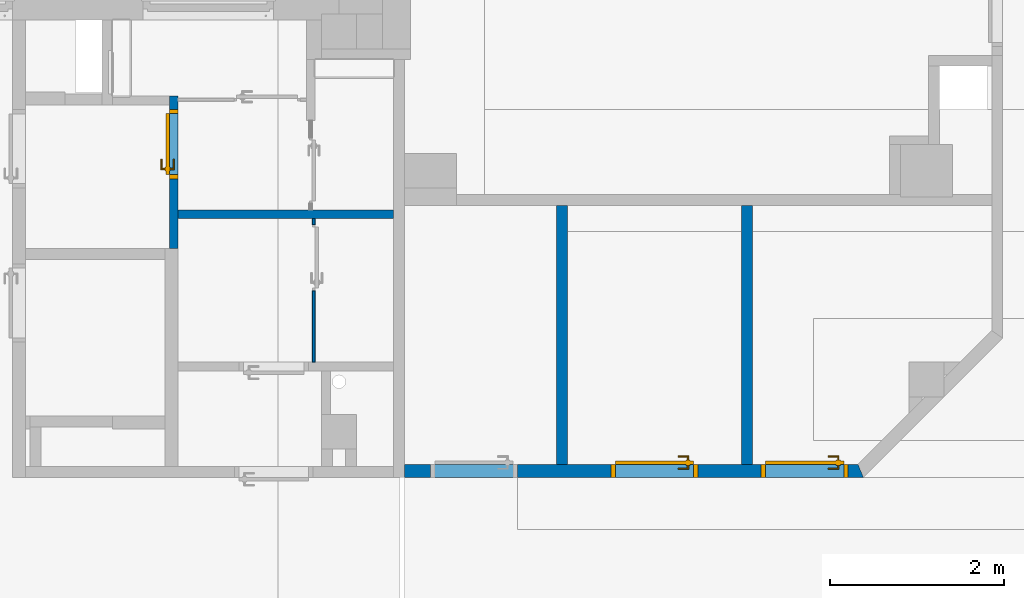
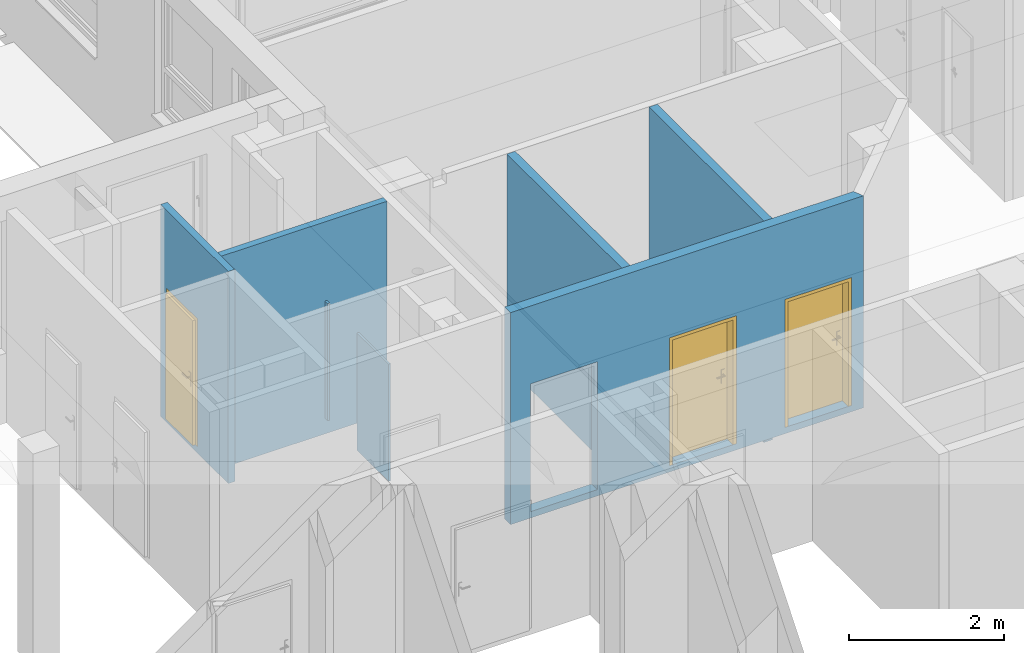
# One storey, part 36 of 140: 6 walls, 3 doors, 5 openings.
"""IFC4 building model written with IfcOpenShell, lengths in metres."""

import ifcopenshell
import ifcopenshell.guid

model = None  # the IFC model being written
_history = None  # IfcOwnerHistory: only IFC2X3 demands one
_inside = {}  # id of a spatial element -> (the spatial element, [elements in it])
_under = {}  # id of a project, library or spatial element -> (it, [spatial elements below it])
_declared = {}  # id of a project -> (the project, [libraries it declares])
_typed = {}  # id of a type object -> (the type object, [elements of that type])
_made_of = {}  # id of a material, layer set ... -> (it, [elements and type objects made of it])


def new_model(schema):
    """Start an empty IFC model of exactly this schema.

    Asked for "IFC4X3", IfcOpenShell would pick the latest addendum, in which some entities
    have other attributes; the version numbers below select the first issue.
    IFC2X3 requires an IfcOwnerHistory on every rooted entity: one is made here for all.
    """
    global model, _history
    if schema == "IFC4X3":
        model = ifcopenshell.file(schema_version=(4, 3, 0, 0))
    else:
        model = ifcopenshell.file(schema=schema)
    _inside.clear()
    _under.clear()
    _declared.clear()
    _typed.clear()
    _made_of.clear()
    _history = None
    if model.schema == "IFC2X3":
        org = make("IfcOrganization", Name="unknown")
        user = make(
            "IfcPersonAndOrganization",
            ThePerson=make("IfcPerson", FamilyName="unknown"),
            TheOrganization=org,
        )
        app = make(
            "IfcApplication",
            ApplicationDeveloper=org,
            Version="unknown",
            ApplicationFullName="unknown",
            ApplicationIdentifier="unknown",
        )
        _history = make(
            "IfcOwnerHistory",
            OwningUser=user,
            OwningApplication=app,
            ChangeAction="ADDED",
            CreationDate=0,
        )
    return model


def make(cls, **values):
    """One entity of the class cls with the attributes given. An attribute that is None is left unset."""
    return model.create_entity(
        cls, **{name: value for name, value in values.items() if value is not None}
    )


def entity(cls, *values):
    """Any entity or typed value of the class cls, its attributes in the order of the schema. None: left unset."""
    e = model.create_entity(cls)
    for i, value in enumerate(values):
        if value is not None:
            e[i] = value
    return e


def rooted(cls, **values):
    """An entity with a GlobalId (a new one), such as an element, a storey or a relation."""
    return make(cls, GlobalId=ifcopenshell.guid.new(), OwnerHistory=_history, **values)


def si_unit(unit_type, name, prefix=None):
    """IfcSIUnit, for example si_unit("LENGTHUNIT", "METRE", prefix="MILLI")."""
    return make("IfcSIUnit", UnitType=unit_type, Prefix=prefix, Name=name)


def converted_unit(unit_type, name, factor, base, dimensions=None, offset=None):
    """IfcConversionBasedUnit, such as the inch: factor (a typed value) times the base unit."""
    return make(
        "IfcConversionBasedUnit"
        if offset is None
        else "IfcConversionBasedUnitWithOffset",
        ConversionOffset=offset,
        Dimensions=None
        if dimensions is None
        else entity("IfcDimensionalExponents", *dimensions),
        UnitType=unit_type,
        Name=name,
        ConversionFactor=make(
            "IfcMeasureWithUnit", ValueComponent=factor, UnitComponent=base
        ),
    )


def derived_unit(unit_type, elements):
    """IfcDerivedUnit: a product of units, each with its exponent."""
    return make(
        "IfcDerivedUnit",
        Elements=[
            make("IfcDerivedUnitElement", Unit=unit, Exponent=power)
            for unit, power in elements
        ],
        UnitType=unit_type,
    )


def assignment(units):
    """IfcUnitAssignment: the units of a project."""
    return None if units is None else make("IfcUnitAssignment", Units=units)


def point(xyz):
    """IfcCartesianPoint."""
    return None if xyz is None else make("IfcCartesianPoint", Coordinates=xyz)


def direction(xyz):
    """IfcDirection."""
    return None if xyz is None else make("IfcDirection", DirectionRatios=xyz)


def frame(location, z_axis=None, x_axis=None):
    """IfcAxis2Placement3D, a coordinate frame: its origin and axes. An axis left out is left unset."""
    return make(
        "IfcAxis2Placement3D",
        Location=point(location),
        Axis=direction(z_axis),
        RefDirection=direction(x_axis),
    )


def frame_2d(location, x_axis=None):
    """IfcAxis2Placement2D, a coordinate frame in the plane: its origin and x axis."""
    return make(
        "IfcAxis2Placement2D", Location=point(location), RefDirection=direction(x_axis)
    )


def origin():
    """The frame at (0, 0, 0) with its axes left unset."""
    return frame((0.0, 0.0, 0.0))


def origin_with_axes():
    """The frame at (0, 0, 0) with the z axis (0, 0, 1) and the x axis (1, 0, 0) written out."""
    return frame((0.0, 0.0, 0.0), z_axis=(0.0, 0.0, 1.0), x_axis=(1.0, 0.0, 0.0))


def place(relative_to, where):
    """IfcLocalPlacement: puts the frame where relative to a parent placement (None: the world)."""
    return make(
        "IfcLocalPlacement", PlacementRelTo=relative_to, RelativePlacement=where
    )


def context(
    kind, dimensions, precision=None, world=None, true_north=None, identifier=None
):
    """IfcGeometricRepresentationContext, for example the 3D "Model" context."""
    return make(
        "IfcGeometricRepresentationContext",
        ContextIdentifier=identifier,
        ContextType=kind,
        CoordinateSpaceDimension=dimensions,
        Precision=precision,
        WorldCoordinateSystem=world,
        TrueNorth=true_north,
    )


def subcontext(parent, identifier, kind, view, scale=None):
    """IfcGeometricRepresentationSubContext, for example "Body" below "Model"."""
    return make(
        "IfcGeometricRepresentationSubContext",
        ContextIdentifier=identifier,
        ContextType=kind,
        ParentContext=parent,
        TargetScale=scale,
        TargetView=view,
    )


def project(units=None, contexts=None):
    """IfcProject with its units and contexts."""
    return rooted(
        "IfcProject",
        Name="project",
        RepresentationContexts=contexts,
        UnitsInContext=assignment(units),
    )


def spatial(cls, under=None, at=None, **own):
    """A site, building, storey or space (cls), placed at a placement, below another one or the project."""
    s = rooted(cls, ObjectPlacement=at, **own)
    if under is not None:
        _under.setdefault(under.id(), (under, []))[1].append(s)
    return s


def polyline(points):
    """IfcPolyline through the points."""
    return make("IfcPolyline", Points=[point(p) for p in points])


def profile(cls, at=None, kind="AREA", **sizes):
    """A parametric profile (cls). Its sizes go by their IFC names, for example OverallWidth=200.0."""
    return make(cls, ProfileType=kind, Position=at, **sizes)


def rectangle(**sizes):
    """IfcRectangleProfileDef."""
    return profile("IfcRectangleProfileDef", **sizes)


def outline(outer, holes=None, kind="AREA"):
    """IfcArbitraryClosedProfileDef: a profile drawn as a closed curve; with holes, ...WithVoids."""
    if holes is None:
        return make("IfcArbitraryClosedProfileDef", ProfileType=kind, OuterCurve=outer)
    return make(
        "IfcArbitraryProfileDefWithVoids",
        ProfileType=kind,
        OuterCurve=outer,
        InnerCurves=holes,
    )


def extrude(swept, where, along, depth):
    """IfcExtrudedAreaSolid: the profile swept, set in the frame where, extruded along a direction by depth."""
    return make(
        "IfcExtrudedAreaSolid",
        SweptArea=swept,
        Position=where,
        ExtrudedDirection=direction(along),
        Depth=depth,
    )


def faces_of(points, faces, orient=None, outer=None):
    """IfcFace entities. A face is a list of loops; a loop is a list of indices into points, from 0.

    orient and outer hold one flag for each loop. By default every Orientation is true, the
    first loop of a face is its IfcFaceOuterBound and the others are IfcFaceBound.
    """
    made = []
    for i, loops in enumerate(faces):
        bounds = []
        for j, loop in enumerate(loops):
            is_outer = j == 0 if outer is None else outer[i][j]
            bounds.append(
                make(
                    "IfcFaceOuterBound" if is_outer else "IfcFaceBound",
                    Bound=make("IfcPolyLoop", Polygon=[points[k] for k in loop]),
                    Orientation=True if orient is None else orient[i][j],
                )
            )
        made.append(make("IfcFace", Bounds=bounds))
    return made


def closed_shell(faces, orient=None, outer=None):
    """The faces of one IfcClosedShell. faceted_brep and surface_model build it on their shared points."""
    return ("IfcClosedShell", faces, orient, outer)


def open_shell(faces, orient=None, outer=None):
    """The faces of one IfcOpenShell. surface_model builds it on its shared points."""
    return ("IfcOpenShell", faces, orient, outer)


def surface_model(cls, points, shells):
    """IfcFaceBasedSurfaceModel or IfcShellBasedSurfaceModel (cls): surfaces that need not close."""
    shared = [point(p) for p in points]
    made = [make(c, CfsFaces=faces_of(shared, fs, o, b)) for c, fs, o, b in shells]
    if cls == "IfcFaceBasedSurfaceModel":
        return make(cls, FbsmFaces=made)
    return make(cls, SbsmBoundary=made)


def shape(context_of_items, identifier, shape_type, items):
    """IfcShapeRepresentation: the items that make up one representation, for example the "Body"."""
    return make(
        "IfcShapeRepresentation",
        ContextOfItems=context_of_items,
        RepresentationIdentifier=identifier,
        RepresentationType=shape_type,
        Items=items,
    )


def source(mapping_origin, context_of_items, identifier, shape_type, items):
    """IfcRepresentationMap: a shape defined once, which mapped items show again and again."""
    return make(
        "IfcRepresentationMap",
        MappingOrigin=mapping_origin,
        MappedRepresentation=shape(context_of_items, identifier, shape_type, items),
    )


def transform(
    local_origin,
    x_axis=None,
    y_axis=None,
    z_axis=None,
    scale=None,
    scale2=None,
    scale3=None,
    uniform=True,
):
    """IfcCartesianTransformationOperator3D, or its non-uniform kind. x_axis, y_axis, z_axis: its Axis1, 2, 3."""
    if uniform:
        return make(
            "IfcCartesianTransformationOperator3D",
            Axis1=direction(x_axis),
            Axis2=direction(y_axis),
            LocalOrigin=point(local_origin),
            Scale=scale,
            Axis3=direction(z_axis),
        )
    return make(
        "IfcCartesianTransformationOperator3DnonUniform",
        Axis1=direction(x_axis),
        Axis2=direction(y_axis),
        LocalOrigin=point(local_origin),
        Scale=scale,
        Axis3=direction(z_axis),
        Scale2=scale2,
        Scale3=scale3,
    )


def mapped(mapping_source, mapping_target):
    """IfcMappedItem: shows the shape of a source again, moved by a transform."""
    return make(
        "IfcMappedItem", MappingSource=mapping_source, MappingTarget=mapping_target
    )


def material(Name=None, Category=None):
    """IfcMaterial."""
    return make("IfcMaterial", Name=Name, Category=Category)


def layer(
    of_material, thickness, ventilated=None, Name=None, Category=None, Priority=None
):
    """IfcMaterialLayer: one layer of a wall or slab, of a material (None: an air gap)."""
    return make(
        "IfcMaterialLayer",
        Material=of_material,
        LayerThickness=thickness,
        IsVentilated=ventilated,
        Name=Name,
        Category=Category,
        Priority=Priority,
    )


def layer_set(layers, Name=None):
    """IfcMaterialLayerSet."""
    return make("IfcMaterialLayerSet", MaterialLayers=layers, LayerSetName=Name)


def layer_usage(for_layer_set, set_direction, sense, offset, extent=None):
    """IfcMaterialLayerSetUsage: how a layer set lies in its element."""
    return make(
        "IfcMaterialLayerSetUsage",
        ForLayerSet=for_layer_set,
        LayerSetDirection=set_direction,
        DirectionSense=sense,
        OffsetFromReferenceLine=offset,
        ReferenceExtent=extent,
    )


def made_of(thing, what):
    """Note that an element or type object is made of a material, layer set ...; save() writes the relation."""
    if what is not None:
        _made_of.setdefault(what.id(), (what, []))[1].append(thing)
    return thing


def type_object(cls, material=None, **own):
    """A type object (cls), such as IfcWallType, which elements share."""
    return made_of(rooted(cls, **own), material)


def element(
    cls,
    number,
    at=None,
    inside=None,
    cuts=None,
    type_object=None,
    material=None,
    context=None,
    identifier="Body",
    shape_type=None,
    held_by="IfcProductDefinitionShape",
    body=None,
    shapes=None,
    **own,
):
    """One element of the class cls, such as IfcWall. Its Tag is "e" and its number.

    at: its placement. inside: the storey or other place that contains it. cuts: it is an
    opening in that element (IfcRelVoidsElement). A single representation is given by context,
    identifier, shape_type and body (its items); several are given by shapes. held_by: the class
    of the entity that holds the representations. save() writes the other relations.
    """
    e = rooted(cls, Tag="e%d" % number, ObjectPlacement=at, **own)
    if body is not None:
        shapes = [shape(context, identifier, shape_type, body)]
    if shapes is not None:
        e.Representation = make(held_by, Representations=shapes)
    if inside is not None:
        _inside.setdefault(inside.id(), (inside, []))[1].append(e)
    if cuts is not None:
        rooted(
            "IfcRelVoidsElement", RelatingBuildingElement=cuts, RelatedOpeningElement=e
        )
    if type_object is not None:
        _typed.setdefault(type_object.id(), (type_object, []))[1].append(e)
    return made_of(e, material)


def fill(opening, filler):
    """IfcRelFillsElement: the door or window that sits in an opening."""
    return rooted(
        "IfcRelFillsElement",
        RelatingOpeningElement=opening,
        RelatedBuildingElement=filler,
    )


def aggregate(whole, parts):
    """IfcRelAggregates: a whole, such as a stair, and the parts it consists of."""
    return rooted("IfcRelAggregates", RelatingObject=whole, RelatedObjects=parts)


def save(model, path):
    """Write the relations noted so far, then the file.

    IfcRelAggregates (storeys below a building ...), IfcRelContainedInSpatialStructure (elements
    in a storey), IfcRelDefinesByType, IfcRelAssociatesMaterial and IfcRelDeclares: one each for
    every whole, place, type object, material and project.
    """
    for whole, parts in _under.values():
        aggregate(whole, parts)
    for where, things in _inside.values():
        rooted(
            "IfcRelContainedInSpatialStructure",
            RelatedElements=things,
            RelatingStructure=where,
        )
    for kind, things in _typed.values():
        rooted("IfcRelDefinesByType", RelatedObjects=things, RelatingType=kind)
    for what, things in _made_of.values():
        rooted("IfcRelAssociatesMaterial", RelatedObjects=things, RelatingMaterial=what)
    for by, libraries in _declared.values():
        rooted("IfcRelDeclares", RelatingContext=by, RelatedDefinitions=libraries)
    model.write(path)


model = new_model("IFC4")

# Units and contexts
model_context = context("Model", 3, precision=1e-05, world=origin())
body_context = subcontext(model_context, "Body", "Model", "MODEL_VIEW")
ifc_project = project(units=[si_unit("LENGTHUNIT", "METRE"), si_unit("AREAUNIT", "SQUARE_METRE"), si_unit("VOLUMEUNIT", "CUBIC_METRE"), si_unit("MASSUNIT", "GRAM", prefix="KILO"), converted_unit("PLANEANGLEUNIT", "DEGREE", entity("IfcPlaneAngleMeasure", 0.0174532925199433), si_unit("PLANEANGLEUNIT", "RADIAN"), dimensions=[0, 0, 0, 0, 0, 0, 0]), derived_unit("THERMALTRANSMITTANCEUNIT", [(si_unit("POWERUNIT", "WATT"), 1), (si_unit("THERMODYNAMICTEMPERATUREUNIT", "KELVIN"), -1), (si_unit("LENGTHUNIT", "METRE"), -2)]), derived_unit("VOLUMETRICFLOWRATEUNIT", [(si_unit("LENGTHUNIT", "METRE"), 3), (converted_unit("TIMEUNIT", "hour", entity("IfcTimeMeasure", 3600.0), si_unit("TIMEUNIT", "SECOND"), dimensions=[0, 0, 1, 0, 0, 0, 0]), -1), (si_unit("LENGTHUNIT", "METRE"), -1)])], contexts=[model_context])

# Site, building, storey
site_placement = place(None, origin())
site = spatial("IfcSite", under=ifc_project, at=site_placement, Name="3. ASŘ", CompositionType="ELEMENT")
building_placement = place(site_placement, origin())
building = spatial("IfcBuilding", under=site, at=building_placement, Name="Pavilon C", CompositionType="ELEMENT")
storey_placement = place(building_placement, origin())
storey = spatial("IfcBuildingStorey", under=building, at=storey_placement, Name="Půdorys 1.NP", CompositionType="ELEMENT", Elevation=0.0)

# Wall
ifc_material_1 = material(Name="YTONG 100")
ifc_layer_1 = layer(ifc_material_1, 0.1)
ifc_layer_set_1 = layer_set([ifc_layer_1])
ifc_layer_usage_1 = layer_usage(ifc_layer_set_1, "AXIS2", "POSITIVE", 0.0)
wall_1_placement = place(storey_placement, frame((22.15, 12.65, -0.1)))
element("IfcWall", 1, at=wall_1_placement, inside=storey, material=ifc_layer_usage_1, Name="YTONG 100", context=body_context, shape_type="SweptSolid", body=[
    extrude(rectangle(XDim=2.47499999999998, YDim=0.1, at=frame_2d((1.23749999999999, 0.05), x_axis=(1.0, 0.0))), origin_with_axes(), (0.0, 0.0, 1.0), 3.35),
])

# Wall, opening, door
ifc_material_2 = material(Name="YTONG 100")
ifc_layer_2 = layer(ifc_material_2, 0.1)
ifc_layer_set_2 = layer_set([ifc_layer_2])
ifc_layer_usage_2 = layer_usage(ifc_layer_set_2, "AXIS2", "POSITIVE", 0.0)
wall_2_placement = place(storey_placement, frame((22.05, 14.055, -0.1), z_axis=(0.0, 0.0, 1.0), x_axis=(0.0, -1.0, 0.0)))
wall_2 = element("IfcWall", 2, at=wall_2_placement, inside=storey, material=ifc_layer_usage_2, Name="YTONG 100", context=body_context, shape_type="SweptSolid", body=[
    extrude(rectangle(XDim=1.75, YDim=0.1, at=frame_2d((0.875, 0.05), x_axis=(1.0, 0.0))), origin_with_axes(), (0.0, 0.0, 1.0), 3.35),
])
opening_1_placement = place(wall_2_placement, frame((0.150000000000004, 0.0, 0.1), z_axis=(0.0, 1.0, 0.0), x_axis=(0.0, 0.0, 1.0)))
opening_1 = element("IfcOpeningElement", 3, at=opening_1_placement, cuts=wall_2, Name="Dveřní otvor", ObjectType="Opening", context=body_context, shape_type="SweptSolid", body=[
    extrude(outline(polyline([(0.0, 0.8), (2.02, 0.8), (2.02, 0.0), (0.0, 0.0), (0.0, 0.8)])), origin_with_axes(), (0.0, 0.0, 1.0), 0.1),
])
door_type_1 = type_object("IfcDoorType", Name="D101", OperationType="NOTDEFINED", ParameterTakesPrecedence=False, PredefinedType="DOOR")
shared_shape_1 = source(origin_with_axes(), body_context, "Body", "SurfaceModel", [
    surface_model("IfcShellBasedSurfaceModel", [(0.0, 0.1, 2.02), (0.0, 0.1, -6.12323399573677e-18), (0.05, 0.1, -6.12323399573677e-18), (0.05, 0.1, 2.02), (0.0, 0.0, 6.12323399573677e-18), (0.0, 2.41584530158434e-16, 2.02), (0.05, 2.41584530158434e-16, 2.02), (0.05, 0.0, 6.12323399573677e-18)], [closed_shell([[[0, 1, 2, 3]], [[4, 5, 6, 7]], [[1, 0, 5, 4]], [[2, 1, 4, 7]], [[3, 2, 7, 6]], [[0, 3, 6, 5]]], orient=[[False], [False], [False], [False], [False], [False]])]),
    surface_model("IfcShellBasedSurfaceModel", [(0.75, 0.1, 2.02), (0.75, 0.1, -6.12323399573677e-18), (0.8, 0.1, -6.12323399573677e-18), (0.8, 0.1, 2.02), (0.75, 0.0, 6.12323399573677e-18), (0.75, 2.41584530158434e-16, 2.02), (0.8, 2.41584530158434e-16, 2.02), (0.8, 0.0, 6.12323399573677e-18)], [closed_shell([[[0, 1, 2, 3]], [[4, 5, 6, 7]], [[1, 0, 5, 4]], [[2, 1, 4, 7]], [[3, 2, 7, 6]], [[0, 3, 6, 5]]], orient=[[False], [False], [False], [False], [False], [False]])]),
    surface_model("IfcShellBasedSurfaceModel", [(0.05, 0.1, 2.02), (0.05, 0.1, 1.97), (0.75, 0.1, 1.97), (0.75, 0.1, 2.02), (0.05, 2.41584530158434e-16, 1.97), (0.05, 2.41584530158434e-16, 2.02), (0.75, 2.41584530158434e-16, 2.02), (0.75, 2.41584530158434e-16, 1.97)], [closed_shell([[[0, 1, 2, 3]], [[4, 5, 6, 7]], [[1, 0, 5, 4]], [[2, 1, 4, 7]], [[3, 2, 7, 6]], [[0, 3, 6, 5]]], orient=[[False], [False], [False], [False], [False], [False]])]),
    surface_model("IfcShellBasedSurfaceModel", [(0.05, 0.14, 1.97), (0.05, 0.14, -1.10218211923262e-17), (0.75, 0.14, -1.10218211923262e-17), (0.75, 0.14, 1.97), (0.05, 0.1, -6.12323399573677e-18), (0.05, 0.1, 1.97), (0.75, 0.1, 1.97), (0.75, 0.1, -6.12323399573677e-18)], [closed_shell([[[0, 1, 2, 3]], [[4, 5, 6, 7]], [[1, 0, 5, 4]], [[2, 1, 4, 7]], [[3, 2, 7, 6]], [[0, 3, 6, 5]]], orient=[[False], [False], [False], [False], [False], [False]])]),
    surface_model("IfcShellBasedSurfaceModel", [(0.66, 0.1, 1.125), (0.66, 0.1, 0.91), (0.71, 0.1, 0.91), (0.71, 0.1, 1.125), (0.66, 0.0900000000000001, 0.91), (0.66, 0.0900000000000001, 1.125), (0.71, 0.0900000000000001, 1.125), (0.71, 0.0900000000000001, 0.91)], [closed_shell([[[0, 1, 2, 3]], [[4, 5, 6, 7]], [[1, 0, 5, 4]], [[2, 1, 4, 7]], [[3, 2, 7, 6]], [[0, 3, 6, 5]]], orient=[[False], [False], [False], [False], [False], [False]])]),
    surface_model("IfcShellBasedSurfaceModel", [(0.685, 0.0900000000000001, 1.06), (0.68, 0.0900000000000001, 1.05866025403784), (0.676339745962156, 0.0900000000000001, 1.055), (0.675, 0.0900000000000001, 1.05), (0.676339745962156, 0.0900000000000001, 1.045), (0.68, 0.0900000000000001, 1.04133974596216), (0.685, 0.0900000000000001, 1.04), (0.69, 0.0900000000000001, 1.04133974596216), (0.693660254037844, 0.0900000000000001, 1.045), (0.695, 0.0900000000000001, 1.05), (0.693660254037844, 0.0900000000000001, 1.055), (0.69, 0.0900000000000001, 1.05866025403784), (0.69, 0.0450000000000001, 1.05866025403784), (0.685, 0.0500000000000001, 1.06), (0.693660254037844, 0.0413397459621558, 1.055), (0.695, 0.0400000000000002, 1.05), (0.693660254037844, 0.0413397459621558, 1.045), (0.69, 0.0450000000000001, 1.04133974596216), (0.685, 0.0500000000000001, 1.04), (0.68, 0.0550000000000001, 1.04133974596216), (0.676339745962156, 0.0586602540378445, 1.045), (0.675, 0.0600000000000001, 1.05), (0.676339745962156, 0.0586602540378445, 1.055), (0.68, 0.0550000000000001, 1.05866025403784), (0.57, 0.0450000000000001, 1.05866025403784), (0.57, 0.0500000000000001, 1.06), (0.57, 0.0413397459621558, 1.055), (0.57, 0.0400000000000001, 1.05), (0.57, 0.0413397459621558, 1.045), (0.57, 0.0450000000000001, 1.04133974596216), (0.57, 0.0500000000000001, 1.04), (0.57, 0.0550000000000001, 1.04133974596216), (0.57, 0.0586602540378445, 1.045), (0.57, 0.0600000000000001, 1.05), (0.57, 0.0586602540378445, 1.055), (0.57, 0.0550000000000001, 1.05866025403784)], [open_shell([[[0, 1, 2, 3, 4, 5, 6, 7, 8, 9, 10, 11]], [[0, 11, 12, 13]], [[11, 10, 14, 12]], [[10, 9, 15, 14]], [[9, 8, 16, 15]], [[8, 7, 17, 16]], [[7, 6, 18, 17]], [[6, 5, 19, 18]], [[5, 4, 20, 19]], [[4, 3, 21, 20]], [[3, 2, 22, 21]], [[2, 1, 23, 22]], [[1, 0, 13, 23]], [[13, 12, 24, 25]], [[12, 14, 26, 24]], [[14, 15, 27, 26]], [[15, 16, 28, 27]], [[16, 17, 29, 28]], [[17, 18, 30, 29]], [[18, 19, 31, 30]], [[19, 20, 32, 31]], [[20, 21, 33, 32]], [[21, 22, 34, 33]], [[22, 23, 35, 34]], [[23, 13, 25, 35]]], orient=[[False], [False], [False], [False], [False], [False], [False], [False], [False], [False], [False], [False], [False], [False], [False], [False], [False], [False], [False], [False], [False], [False], [False], [False], [False]])]),
    surface_model("IfcShellBasedSurfaceModel", [(0.66, 0.14, 1.125), (0.71, 0.14, 1.125), (0.71, 0.14, 0.91), (0.66, 0.14, 0.91), (0.66, 0.15, 0.91), (0.71, 0.15, 0.91), (0.71, 0.15, 1.125), (0.66, 0.15, 1.125)], [closed_shell([[[0, 1, 2, 3]], [[4, 5, 6, 7]], [[3, 4, 7, 0]], [[2, 5, 4, 3]], [[1, 6, 5, 2]], [[0, 7, 6, 1]]], orient=[[False], [False], [False], [False], [False], [False]])]),
    surface_model("IfcShellBasedSurfaceModel", [(0.685, 0.15, 1.06), (0.69, 0.15, 1.05866025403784), (0.693660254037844, 0.15, 1.055), (0.695, 0.15, 1.05), (0.693660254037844, 0.15, 1.045), (0.69, 0.15, 1.04133974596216), (0.685, 0.15, 1.04), (0.68, 0.15, 1.04133974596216), (0.676339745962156, 0.15, 1.045), (0.675, 0.15, 1.05), (0.676339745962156, 0.15, 1.055), (0.68, 0.15, 1.05866025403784), (0.685, 0.19, 1.06), (0.69, 0.195, 1.05866025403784), (0.693660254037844, 0.198660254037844, 1.055), (0.695, 0.2, 1.05), (0.693660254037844, 0.198660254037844, 1.045), (0.69, 0.195, 1.04133974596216), (0.685, 0.19, 1.04), (0.68, 0.185, 1.04133974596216), (0.676339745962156, 0.181339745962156, 1.045), (0.675, 0.18, 1.05), (0.676339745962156, 0.181339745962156, 1.055), (0.68, 0.185, 1.05866025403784), (0.57, 0.19, 1.06), (0.57, 0.195, 1.05866025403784), (0.57, 0.198660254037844, 1.055), (0.57, 0.2, 1.05), (0.57, 0.198660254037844, 1.045), (0.57, 0.195, 1.04133974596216), (0.57, 0.19, 1.04), (0.57, 0.185, 1.04133974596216), (0.57, 0.181339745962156, 1.045), (0.57, 0.18, 1.05), (0.57, 0.181339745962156, 1.055), (0.57, 0.185, 1.05866025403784)], [open_shell([[[0, 1, 2, 3, 4, 5, 6, 7, 8, 9, 10, 11]], [[0, 12, 13, 1]], [[1, 13, 14, 2]], [[2, 14, 15, 3]], [[3, 15, 16, 4]], [[4, 16, 17, 5]], [[5, 17, 18, 6]], [[6, 18, 19, 7]], [[7, 19, 20, 8]], [[8, 20, 21, 9]], [[9, 21, 22, 10]], [[10, 22, 23, 11]], [[11, 23, 12, 0]], [[12, 24, 25, 13]], [[13, 25, 26, 14]], [[14, 26, 27, 15]], [[15, 27, 28, 16]], [[16, 28, 29, 17]], [[17, 29, 30, 18]], [[18, 30, 31, 19]], [[19, 31, 32, 20]], [[20, 32, 33, 21]], [[21, 33, 34, 22]], [[22, 34, 35, 23]], [[23, 35, 24, 12]]], orient=[[False], [False], [False], [False], [False], [False], [False], [False], [False], [False], [False], [False], [False], [False], [False], [False], [False], [False], [False], [False], [False], [False], [False], [False], [False]])]),
])
door_1_placement = place(opening_1_placement, frame((0.0, 3.63797880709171e-15, 0.0999999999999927), z_axis=(1.0, 0.0, 0.0), x_axis=(0.0, 1.0, -1.22464679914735e-16)))
door_1 = element("IfcDoor", 4, at=door_1_placement, inside=storey, type_object=door_type_1, Name="D101", OverallHeight=2.02, OverallWidth=0.8, context=body_context, shape_type="MappedRepresentation", body=[
    mapped(shared_shape_1, transform((0.0, 0.0, 0.0), x_axis=(1.0, 0.0, 0.0), y_axis=(0.0, -1.0, 0.0), z_axis=(0.0, 0.0, 1.0), scale=1.0)),
])
fill(opening_1, door_1)

# Wall, opening
ifc_material_3 = material(Name="SANITÁRNÍ WC PŘÍČKA")
ifc_layer_3 = layer(ifc_material_3, 0.032)
ifc_layer_set_3 = layer_set([ifc_layer_3])
ifc_layer_usage_3 = layer_usage(ifc_layer_set_3, "AXIS2", "POSITIVE", 0.0)
wall_3_placement = place(storey_placement, frame((23.725, 11.0, 0.15), z_axis=(0.0, 0.0, 1.0), x_axis=(0.0, 1.0, 0.0)))
wall_3 = element("IfcWall", 5, at=wall_3_placement, inside=storey, material=ifc_layer_usage_3, Name="SANITARNI WC PRICKA", context=body_context, shape_type="SweptSolid", body=[
    extrude(rectangle(XDim=1.65, YDim=0.032, at=frame_2d((0.825, 0.016), x_axis=(1.0, 0.0))), origin_with_axes(), (0.0, 0.0, 1.0), 1.85),
])
opening_2_placement = place(wall_3_placement, frame((0.819999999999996, 0.0, -0.15), z_axis=(0.0, 1.0, 0.0), x_axis=(0.0, 0.0, 1.0)))
element("IfcOpeningElement", 6, at=opening_2_placement, cuts=wall_3, Name="Dveřní otvor", ObjectType="Opening", context=body_context, shape_type="SweptSolid", body=[
    extrude(outline(polyline([(0.0, 0.76), (2.0, 0.76), (2.0, 0.0), (0.0, 0.0), (0.0, 0.76)])), origin_with_axes(), (0.0, 0.0, 1.0), 0.032),
])

# Wall, openings, doors
ifc_material_4 = material(Name="YTONG 150")
ifc_layer_4 = layer(ifc_material_4, 0.15)
ifc_layer_set_4 = layer_set([ifc_layer_4])
ifc_layer_usage_4 = layer_usage(ifc_layer_set_4, "AXIS2", "POSITIVE", 0.0)
wall_4_placement = place(storey_placement, frame((24.75, 9.675, -0.1)))
wall_4 = element("IfcWall", 7, at=wall_4_placement, inside=storey, material=ifc_layer_usage_4, Name="YTONG 150", context=body_context, shape_type="SweptSolid", body=[
    extrude(outline(polyline([(0.0, 0.0), (5.275, 0.0), (5.21286796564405, 0.15), (0.0, 0.15), (0.0, 0.0)])), origin_with_axes(), (0.0, 0.0, 1.0), 3.35),
])
opening_3_placement = place(wall_4_placement, frame((0.3, 0.0, 0.1), z_axis=(0.0, 1.0, 0.0), x_axis=(0.0, 0.0, 1.0)))
element("IfcOpeningElement", 8, at=opening_3_placement, cuts=wall_4, Name="Dveřní otvor", ObjectType="Opening", context=body_context, shape_type="SweptSolid", body=[
    extrude(outline(polyline([(0.0, 1.0), (2.02, 1.0), (2.02, 0.0), (0.0, 0.0), (0.0, 1.0)])), origin_with_axes(), (0.0, 0.0, 1.0), 0.15),
])
opening_4_placement = place(wall_4_placement, frame((3.375, 0.15, 0.1), z_axis=(0.0, -1.0, 0.0), x_axis=(0.0, 0.0, 1.0)))
opening_4 = element("IfcOpeningElement", 9, at=opening_4_placement, cuts=wall_4, Name="Dveřní otvor", ObjectType="Opening", context=body_context, shape_type="SweptSolid", body=[
    extrude(outline(polyline([(0.0, 1.0), (2.02, 1.0), (2.02, 0.0), (0.0, 0.0), (0.0, 1.0)])), origin_with_axes(), (0.0, 0.0, 1.0), 0.15),
])
opening_5_placement = place(wall_4_placement, frame((5.1, 0.15, 0.1), z_axis=(0.0, -1.0, 0.0), x_axis=(0.0, 0.0, 1.0)))
opening_5 = element("IfcOpeningElement", 10, at=opening_5_placement, cuts=wall_4, Name="Dveřní otvor", ObjectType="Opening", context=body_context, shape_type="SweptSolid", body=[
    extrude(outline(polyline([(0.0, 1.0), (2.02, 1.0), (2.02, 0.0), (0.0, 0.0), (0.0, 1.0)])), origin_with_axes(), (0.0, 0.0, 1.0), 0.15),
])
door_type_2 = type_object("IfcDoorType", Name="D101", OperationType="NOTDEFINED", ParameterTakesPrecedence=False, PredefinedType="DOOR")
shared_shape_2 = source(origin_with_axes(), body_context, "Body", "SurfaceModel", [
    surface_model("IfcShellBasedSurfaceModel", [(0.0, 0.15, 2.02), (0.0, 0.15, -9.18485099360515e-18), (0.05, 0.15, -9.18485099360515e-18), (0.05, 0.15, 2.02), (0.0, 0.0, 9.18485099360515e-18), (0.0, 2.55795384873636e-16, 2.02), (0.05, 2.55795384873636e-16, 2.02), (0.05, 0.0, 9.18485099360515e-18)], [closed_shell([[[0, 1, 2, 3]], [[4, 5, 6, 7]], [[1, 0, 5, 4]], [[2, 1, 4, 7]], [[3, 2, 7, 6]], [[0, 3, 6, 5]]], orient=[[False], [False], [False], [False], [False], [False]])]),
    surface_model("IfcShellBasedSurfaceModel", [(0.95, 0.15, 2.02), (0.95, 0.15, -9.18485099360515e-18), (1.0, 0.15, -9.18485099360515e-18), (1.0, 0.15, 2.02), (0.95, 0.0, 9.18485099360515e-18), (0.95, 2.55795384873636e-16, 2.02), (1.0, 2.55795384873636e-16, 2.02), (1.0, 0.0, 9.18485099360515e-18)], [closed_shell([[[0, 1, 2, 3]], [[4, 5, 6, 7]], [[1, 0, 5, 4]], [[2, 1, 4, 7]], [[3, 2, 7, 6]], [[0, 3, 6, 5]]], orient=[[False], [False], [False], [False], [False], [False]])]),
    surface_model("IfcShellBasedSurfaceModel", [(0.05, 0.15, 2.02), (0.05, 0.15, 1.97), (0.95, 0.15, 1.97), (0.95, 0.15, 2.02), (0.05, 2.27373675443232e-16, 1.97), (0.05, 2.27373675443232e-16, 2.02), (0.95, 2.27373675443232e-16, 2.02), (0.95, 2.27373675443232e-16, 1.97)], [closed_shell([[[0, 1, 2, 3]], [[4, 5, 6, 7]], [[1, 0, 5, 4]], [[2, 1, 4, 7]], [[3, 2, 7, 6]], [[0, 3, 6, 5]]], orient=[[False], [False], [False], [False], [False], [False]])]),
    surface_model("IfcShellBasedSurfaceModel", [(0.05, 0.19, 1.97), (0.05, 0.19, -1.40834381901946e-17), (0.95, 0.19, -1.40834381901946e-17), (0.95, 0.19, 1.97), (0.05, 0.15, -9.18485099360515e-18), (0.05, 0.15, 1.97), (0.95, 0.15, 1.97), (0.95, 0.15, -9.18485099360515e-18)], [closed_shell([[[0, 1, 2, 3]], [[4, 5, 6, 7]], [[1, 0, 5, 4]], [[2, 1, 4, 7]], [[3, 2, 7, 6]], [[0, 3, 6, 5]]], orient=[[False], [False], [False], [False], [False], [False]])]),
    surface_model("IfcShellBasedSurfaceModel", [(0.86, 0.15, 1.125), (0.86, 0.15, 0.91), (0.91, 0.15, 0.91), (0.91, 0.15, 1.125), (0.86, 0.14, 0.91), (0.86, 0.14, 1.125), (0.91, 0.14, 1.125), (0.91, 0.14, 0.91)], [closed_shell([[[0, 1, 2, 3]], [[4, 5, 6, 7]], [[1, 0, 5, 4]], [[2, 1, 4, 7]], [[3, 2, 7, 6]], [[0, 3, 6, 5]]], orient=[[False], [False], [False], [False], [False], [False]])]),
    surface_model("IfcShellBasedSurfaceModel", [(0.885, 0.14, 1.06), (0.88, 0.14, 1.05866025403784), (0.876339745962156, 0.14, 1.055), (0.875, 0.14, 1.05), (0.876339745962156, 0.14, 1.045), (0.88, 0.14, 1.04133974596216), (0.885, 0.14, 1.04), (0.89, 0.14, 1.04133974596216), (0.893660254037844, 0.14, 1.045), (0.895, 0.14, 1.05), (0.893660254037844, 0.14, 1.055), (0.89, 0.14, 1.05866025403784), (0.89, 0.0950000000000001, 1.05866025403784), (0.885, 0.1, 1.06), (0.893660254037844, 0.0913397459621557, 1.055), (0.895, 0.0900000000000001, 1.05), (0.893660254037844, 0.0913397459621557, 1.045), (0.89, 0.0950000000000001, 1.04133974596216), (0.885, 0.1, 1.04), (0.88, 0.105, 1.04133974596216), (0.876339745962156, 0.108660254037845, 1.045), (0.875, 0.11, 1.05), (0.876339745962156, 0.108660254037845, 1.055), (0.88, 0.105, 1.05866025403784), (0.77, 0.0950000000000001, 1.05866025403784), (0.77, 0.1, 1.06), (0.77, 0.0913397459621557, 1.055), (0.77, 0.0900000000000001, 1.05), (0.77, 0.0913397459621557, 1.045), (0.77, 0.0950000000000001, 1.04133974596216), (0.77, 0.1, 1.04), (0.77, 0.105, 1.04133974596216), (0.77, 0.108660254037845, 1.045), (0.77, 0.11, 1.05), (0.77, 0.108660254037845, 1.055), (0.77, 0.105, 1.05866025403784)], [open_shell([[[0, 1, 2, 3, 4, 5, 6, 7, 8, 9, 10, 11]], [[0, 11, 12, 13]], [[11, 10, 14, 12]], [[10, 9, 15, 14]], [[9, 8, 16, 15]], [[8, 7, 17, 16]], [[7, 6, 18, 17]], [[6, 5, 19, 18]], [[5, 4, 20, 19]], [[4, 3, 21, 20]], [[3, 2, 22, 21]], [[2, 1, 23, 22]], [[1, 0, 13, 23]], [[13, 12, 24, 25]], [[12, 14, 26, 24]], [[14, 15, 27, 26]], [[15, 16, 28, 27]], [[16, 17, 29, 28]], [[17, 18, 30, 29]], [[18, 19, 31, 30]], [[19, 20, 32, 31]], [[20, 21, 33, 32]], [[21, 22, 34, 33]], [[22, 23, 35, 34]], [[23, 13, 25, 35]]], orient=[[False], [False], [False], [False], [False], [False], [False], [False], [False], [False], [False], [False], [False], [False], [False], [False], [False], [False], [False], [False], [False], [False], [False], [False], [False]])]),
    surface_model("IfcShellBasedSurfaceModel", [(0.86, 0.19, 1.125), (0.91, 0.19, 1.125), (0.91, 0.19, 0.91), (0.86, 0.19, 0.91), (0.86, 0.2, 0.91), (0.91, 0.2, 0.91), (0.91, 0.2, 1.125), (0.86, 0.2, 1.125)], [closed_shell([[[0, 1, 2, 3]], [[4, 5, 6, 7]], [[3, 4, 7, 0]], [[2, 5, 4, 3]], [[1, 6, 5, 2]], [[0, 7, 6, 1]]], orient=[[False], [False], [False], [False], [False], [False]])]),
    surface_model("IfcShellBasedSurfaceModel", [(0.885, 0.2, 1.06), (0.89, 0.2, 1.05866025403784), (0.893660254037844, 0.2, 1.055), (0.895, 0.2, 1.05), (0.893660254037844, 0.2, 1.045), (0.89, 0.2, 1.04133974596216), (0.885, 0.2, 1.04), (0.88, 0.2, 1.04133974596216), (0.876339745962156, 0.2, 1.045), (0.875, 0.2, 1.05), (0.876339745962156, 0.2, 1.055), (0.88, 0.2, 1.05866025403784), (0.885, 0.24, 1.06), (0.89, 0.245, 1.05866025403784), (0.893660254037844, 0.248660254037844, 1.055), (0.895, 0.25, 1.05), (0.893660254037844, 0.248660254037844, 1.045), (0.89, 0.245, 1.04133974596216), (0.885, 0.24, 1.04), (0.88, 0.235, 1.04133974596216), (0.876339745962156, 0.231339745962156, 1.045), (0.875, 0.23, 1.05), (0.876339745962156, 0.231339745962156, 1.055), (0.88, 0.235, 1.05866025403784), (0.77, 0.24, 1.06), (0.77, 0.245, 1.05866025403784), (0.77, 0.248660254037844, 1.055), (0.77, 0.25, 1.05), (0.77, 0.248660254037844, 1.045), (0.77, 0.245, 1.04133974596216), (0.77, 0.24, 1.04), (0.77, 0.235, 1.04133974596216), (0.77, 0.231339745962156, 1.045), (0.77, 0.23, 1.05), (0.77, 0.231339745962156, 1.055), (0.77, 0.235, 1.05866025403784)], [open_shell([[[0, 1, 2, 3, 4, 5, 6, 7, 8, 9, 10, 11]], [[0, 12, 13, 1]], [[1, 13, 14, 2]], [[2, 14, 15, 3]], [[3, 15, 16, 4]], [[4, 16, 17, 5]], [[5, 17, 18, 6]], [[6, 18, 19, 7]], [[7, 19, 20, 8]], [[8, 20, 21, 9]], [[9, 21, 22, 10]], [[10, 22, 23, 11]], [[11, 23, 12, 0]], [[12, 24, 25, 13]], [[13, 25, 26, 14]], [[14, 26, 27, 15]], [[15, 27, 28, 16]], [[16, 28, 29, 17]], [[17, 29, 30, 18]], [[18, 30, 31, 19]], [[19, 31, 32, 20]], [[20, 32, 33, 21]], [[21, 33, 34, 22]], [[22, 34, 35, 23]], [[23, 35, 24, 12]]], orient=[[False], [False], [False], [False], [False], [False], [False], [False], [False], [False], [False], [False], [False], [False], [False], [False], [False], [False], [False], [False], [False], [False], [False], [False], [False]])]),
])
door_2_placement = place(opening_4_placement, frame((0.0, 1.0, 0.15), z_axis=(1.0, 0.0, 0.0), x_axis=(0.0, -1.0, 2.44929359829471e-16)))
door_2 = element("IfcDoor", 11, at=door_2_placement, inside=storey, type_object=door_type_2, Name="D101", OverallHeight=2.02, OverallWidth=1.0, context=body_context, shape_type="MappedRepresentation", body=[
    mapped(shared_shape_2, transform((0.0, 0.0, 0.0), x_axis=(1.0, 0.0, 0.0), y_axis=(0.0, 1.0, 0.0), z_axis=(0.0, 0.0, 1.0), scale=1.0)),
])
fill(opening_4, door_2)
door_type_3 = type_object("IfcDoorType", Name="D101", OperationType="NOTDEFINED", ParameterTakesPrecedence=False, PredefinedType="DOOR")
door_3_placement = place(opening_5_placement, frame((0.0, 1.0, 0.15), z_axis=(1.0, 0.0, 0.0), x_axis=(0.0, -1.0, 2.44929359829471e-16)))
door_3 = element("IfcDoor", 12, at=door_3_placement, inside=storey, type_object=door_type_3, Name="D101", OverallHeight=2.02, OverallWidth=1.0, context=body_context, shape_type="MappedRepresentation", body=[
    mapped(shared_shape_2, transform((0.0, 0.0, 0.0), x_axis=(1.0, 0.0, 0.0), y_axis=(0.0, 1.0, 0.0), z_axis=(0.0, 0.0, 1.0), scale=1.0)),
])
fill(opening_5, door_3)

# Walls
ifc_material_5 = material(Name="YTONG 125")
ifc_layer_5 = layer(ifc_material_5, 0.125)
ifc_layer_set_5 = layer_set([ifc_layer_5])
ifc_layer_usage_5 = layer_usage(ifc_layer_set_5, "AXIS2", "POSITIVE", 0.0)
wall_5_placement = place(storey_placement, frame((26.5, 12.8, -0.1), z_axis=(0.0, 0.0, 1.0), x_axis=(0.0, -1.0, 0.0)))
element("IfcWall", 13, at=wall_5_placement, inside=storey, material=ifc_layer_usage_5, Name="YTONG 125", context=body_context, shape_type="SweptSolid", body=[
    extrude(rectangle(XDim=2.975, YDim=0.125, at=frame_2d((1.4875, 0.0625), x_axis=(1.0, 0.0))), origin_with_axes(), (0.0, 0.0, 1.0), 3.35),
])
ifc_material_6 = material(Name="YTONG 125")
ifc_layer_6 = layer(ifc_material_6, 0.125)
ifc_layer_set_6 = layer_set([ifc_layer_6])
ifc_layer_usage_6 = layer_usage(ifc_layer_set_6, "AXIS2", "POSITIVE", 0.0)
wall_6_placement = place(storey_placement, frame((28.625, 12.8, -0.25), z_axis=(0.0, 0.0, 1.0), x_axis=(0.0, -1.0, 0.0)))
element("IfcWall", 14, at=wall_6_placement, inside=storey, material=ifc_layer_usage_6, Name="YTONG 125", context=body_context, shape_type="SweptSolid", body=[
    extrude(rectangle(XDim=2.975, YDim=0.125, at=frame_2d((1.4875, 0.0625), x_axis=(1.0, 0.0))), origin_with_axes(), (0.0, 0.0, 1.0), 3.5),
])

save(model, "model.ifc")
